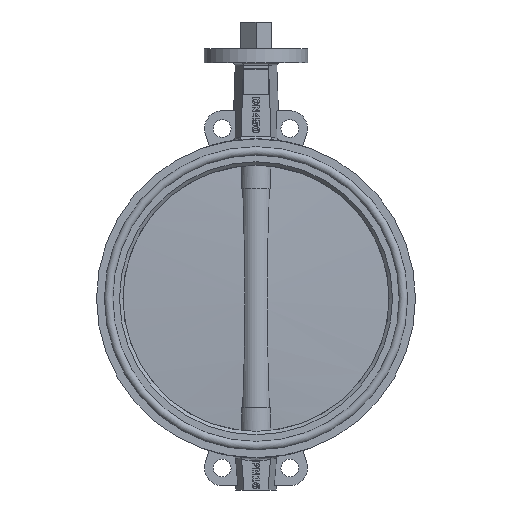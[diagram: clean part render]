
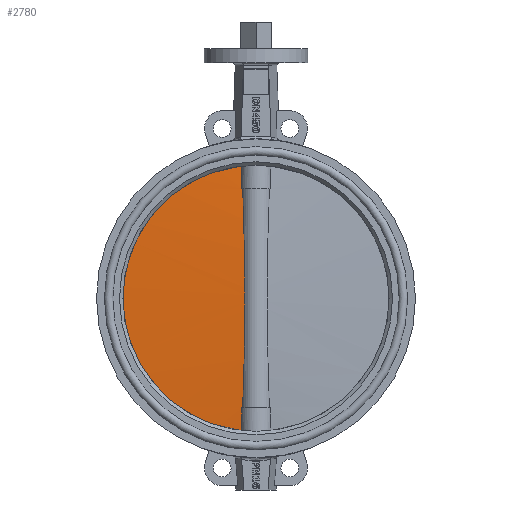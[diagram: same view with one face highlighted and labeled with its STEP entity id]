
A CAD part, left-side view. The second image highlights one B-rep face of the part: STEP entity #2780.
In plain terms, the highlighted spherical face has radius 3378.75 mm.
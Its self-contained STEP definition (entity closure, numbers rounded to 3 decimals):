
#2780=ADVANCED_FACE('',(#6258),#6260,.T.);
#6258=FACE_BOUND('',#6259,.T.);
#6259=EDGE_LOOP('',(#8896,#8897,#8898,#8899,#8900,#8901));
#6260=SPHERICAL_SURFACE('',#6261,3378.75);
#6261=AXIS2_PLACEMENT_3D('',#6262,#6263,#6264);
#6262=CARTESIAN_POINT('',(0.,-3360.75,0.));
#6263=DIRECTION('',(0.,-1.,0.));
#6264=DIRECTION('',(0.,0.,1.));
#8896=ORIENTED_EDGE('',*,*,#9947,.F.);
#8897=ORIENTED_EDGE('',*,*,#9959,.F.);
#8898=ORIENTED_EDGE('',*,*,#9960,.T.);
#8899=ORIENTED_EDGE('',*,*,#9961,.F.);
#8900=ORIENTED_EDGE('',*,*,#9930,.F.);
#8901=ORIENTED_EDGE('',*,*,#9958,.T.);
#9930=EDGE_CURVE('',#11661,#11662,#11663,.T.);
#9947=EDGE_CURVE('',#11694,#11679,#11696,.F.);
#9958=EDGE_CURVE('',#11661,#11679,#11711,.T.);
#9959=EDGE_CURVE('',#11712,#11694,#11713,.T.);
#9960=EDGE_CURVE('',#11712,#11714,#11715,.T.);
#9961=EDGE_CURVE('',#11662,#11714,#11716,.F.);
#11661=VERTEX_POINT('',#17866);
#11662=VERTEX_POINT('',#17867);
#11663=B_SPLINE_CURVE_WITH_KNOTS('',3,
(#17868,#17869,#17870,#17871,#17872,#17873,#17874),
.UNSPECIFIED.,.F.,.F.,
(4,1,1,1,4),
(0.,0.181,0.39,0.669,1.),
.UNSPECIFIED.);
#11679=VERTEX_POINT('',#18007);
#11694=VERTEX_POINT('',#18136);
#11696=B_SPLINE_CURVE_WITH_KNOTS('',3,
(#18141,#18142,#18143,#18144,#18145,#18146,#18147),
.UNSPECIFIED.,.F.,.F.,
(4,1,1,1,4),
(0.,0.181,0.39,0.669,1.),
.UNSPECIFIED.);
#11711=CIRCLE('',#18220,225.);
#11712=VERTEX_POINT('',#18224);
#11713=CIRCLE('',#18225,3373.676);
#11714=VERTEX_POINT('',#18229);
#11715=B_SPLINE_CURVE_WITH_KNOTS('',3,
(#18230,#18231,#18232,#18233,#18234,#18235,#18236,#18237,#18238,#18239,#18240,#18241,
#18242,#18243,#18244,#18245,#18246,#18247),
.UNSPECIFIED.,.F.,.F.,
(4,1,1,1,1,1,1,1,1,1,1,1,1,1,1,4),
(0.,0.053,0.106,0.157,0.224,0.304,
0.395,0.483,0.5,0.572,0.667,
0.751,0.823,0.881,0.94,1.),
.UNSPECIFIED.);
#11716=CIRCLE('',#18248,3373.676);
#17866=CARTESIAN_POINT('',(24.956,10.5,223.612));
#17867=CARTESIAN_POINT('',(23.836,12.842,185.1));
#17868=CARTESIAN_POINT('',(24.956,10.5,223.612));
#17869=CARTESIAN_POINT('',(24.891,10.655,221.284));
#17870=CARTESIAN_POINT('',(24.749,10.983,216.276));
#17871=CARTESIAN_POINT('',(24.502,11.526,207.686));
#17872=CARTESIAN_POINT('',(24.194,12.162,197.177));
#17873=CARTESIAN_POINT('',(23.962,12.608,189.348));
#17874=CARTESIAN_POINT('',(23.836,12.842,185.1));
#18007=CARTESIAN_POINT('',(24.956,10.5,-223.612));
#18136=CARTESIAN_POINT('',(23.836,12.842,-185.1));
#18141=CARTESIAN_POINT('',(24.956,10.5,-223.612));
#18142=CARTESIAN_POINT('',(24.891,10.655,-221.284));
#18143=CARTESIAN_POINT('',(24.749,10.983,-216.276));
#18144=CARTESIAN_POINT('',(24.502,11.526,-207.686));
#18145=CARTESIAN_POINT('',(24.194,12.162,-197.177));
#18146=CARTESIAN_POINT('',(23.962,12.608,-189.348));
#18147=CARTESIAN_POINT('',(23.836,12.842,-185.1));
#18220=AXIS2_PLACEMENT_3D('',#18221,#18222,#18223);
#18221=CARTESIAN_POINT('',(0.,10.5,0.));
#18222=DIRECTION('',(0.,1.,0.));
#18223=DIRECTION('',(0.111,0.,0.994));
#18224=CARTESIAN_POINT('',(22.497,12.851,-185.1));
#18225=AXIS2_PLACEMENT_3D('',#18226,#18227,#18228);
#18226=CARTESIAN_POINT('',(0.,-3360.75,-185.1));
#18227=DIRECTION('',(0.,0.,-1.));
#18228=DIRECTION('',(0.007,1.,0.));
#18229=CARTESIAN_POINT('',(22.497,12.851,185.1));
#18230=CARTESIAN_POINT('',(22.497,12.851,-185.1));
#18231=CARTESIAN_POINT('',(22.292,13.211,-178.555));
#18232=CARTESIAN_POINT('',(21.881,13.89,-165.547));
#18233=CARTESIAN_POINT('',(21.282,14.789,-146.151));
#18234=CARTESIAN_POINT('',(20.661,15.645,-125.062));
#18235=CARTESIAN_POINT('',(20.002,16.48,-100.586));
#18236=CARTESIAN_POINT('',(19.344,17.244,-71.188));
#18237=CARTESIAN_POINT('',(18.852,17.775,-39.173));
#18238=CARTESIAN_POINT('',(18.697,17.937,-14.957));
#18239=CARTESIAN_POINT('',(18.677,17.956,6.833));
#18240=CARTESIAN_POINT('',(18.764,17.867,29.457));
#18241=CARTESIAN_POINT('',(19.149,17.459,60.444));
#18242=CARTESIAN_POINT('',(19.78,16.745,91.483));
#18243=CARTESIAN_POINT('',(20.46,15.908,117.932));
#18244=CARTESIAN_POINT('',(21.132,15.004,141.229));
#18245=CARTESIAN_POINT('',(21.801,14.019,163.009));
#18246=CARTESIAN_POINT('',(22.264,13.259,177.684));
#18247=CARTESIAN_POINT('',(22.497,12.851,185.1));
#18248=AXIS2_PLACEMENT_3D('',#18249,#18250,#18251);
#18249=CARTESIAN_POINT('',(0.,-3360.75,185.1));
#18250=DIRECTION('',(0.,0.,-1.));
#18251=DIRECTION('',(0.007,1.,0.));
